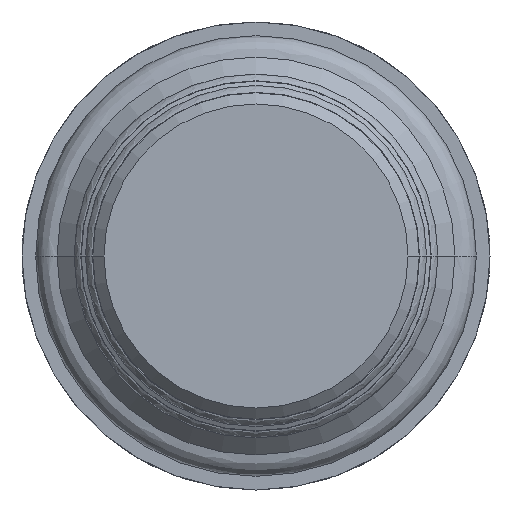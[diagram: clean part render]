
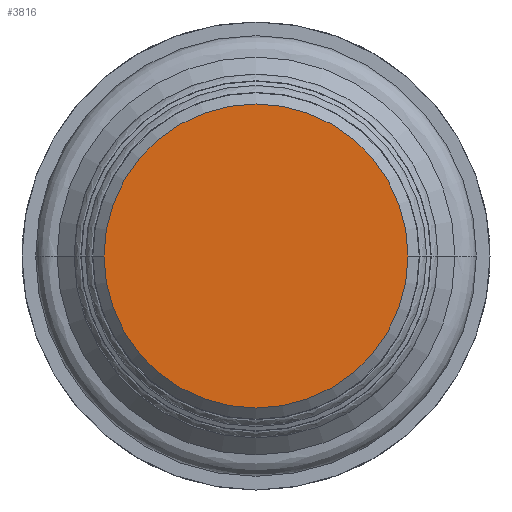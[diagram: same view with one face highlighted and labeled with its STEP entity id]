
A CAD part, front view. The second image highlights one B-rep face of the part: STEP entity #3816.
In plain terms, the highlighted planar face has unit normal (0, -1, 0).
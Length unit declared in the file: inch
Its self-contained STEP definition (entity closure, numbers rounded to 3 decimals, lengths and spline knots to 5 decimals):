
#1092=CARTESIAN_POINT('',(0.,-2.787,0.));
#1093=DIRECTION('',(0.,1.,0.));
#1094=DIRECTION('',(-1.,0.,0.));
#1095=AXIS2_PLACEMENT_3D('',#1092,#1093,#1094);
#1110=CARTESIAN_POINT('',(0.,-2.787,0.));
#1111=DIRECTION('',(0.,-1.,0.));
#1112=DIRECTION('',(-1.,0.,0.));
#1113=AXIS2_PLACEMENT_3D('',#1110,#1111,#1112);
#1767=CARTESIAN_POINT('',(-0.406,-2.787,0.));
#1768=CARTESIAN_POINT('',(0.406,-2.787,0.));
#1769=VERTEX_POINT('',#1767);
#1770=VERTEX_POINT('',#1768);
#3806=CARTESIAN_POINT('',(0.,-2.787,0.));
#3807=DIRECTION('',(0.,1.,0.));
#3808=DIRECTION('',(1.,0.,0.));
#3809=AXIS2_PLACEMENT_3D('',#3806,#3807,#3808);
#3810=PLANE('',#3809);
#3812=ORIENTED_EDGE('',*,*,#3811,.F.);
#3813=ORIENTED_EDGE('',*,*,#3796,.T.);
#3814=EDGE_LOOP('',(#3812,#3813));
#3815=FACE_OUTER_BOUND('',#3814,.F.);
#3816=ADVANCED_FACE('',(#3815),#3810,.F.);
#1096=CIRCLE('',#1095,0.406);
#1114=CIRCLE('',#1113,0.406);
#3796=EDGE_CURVE('',#1769,#1770,#1096,.T.);
#3811=EDGE_CURVE('',#1769,#1770,#1114,.T.);
